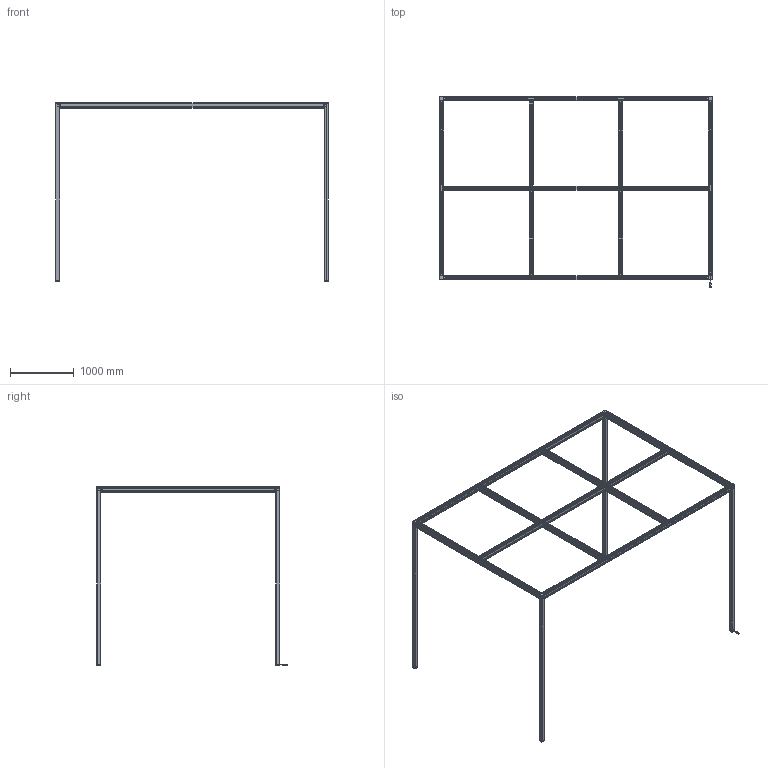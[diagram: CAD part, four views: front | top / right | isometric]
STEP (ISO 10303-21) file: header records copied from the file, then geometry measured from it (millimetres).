
FILE_DESCRIPTION (( 'STEP AP214' ), '1' );
FILE_NAME ('1001984.STEP', '2025-09-12T10:27:54', ( '' ), ( '' ), 'SwSTEP 2.0', 'SolidWorks 2025', '' );
FILE_SCHEMA (( 'AUTOMOTIVE_DESIGN' ));
Length unit declared in the file: millimetre
Products named in the file (1): 1001984
Bounding box: 4262.4 x 2977.5 x 2808.6 mm (x, y, z)
Volume: 86505641.3 mm3; surface area: 18321554.3 mm2
Topology: 113 solids, 113 shells, 7061 faces, 19481 edges, 12838 vertices
Faces by surface type: plane 4725, cylinder 1850, bspline 288, cone 104, sphere 70, torus 24
Entity records: 242362 total; most frequent: CARTESIAN_POINT 61105, ORIENTED_EDGE 38938, DIRECTION 35529, EDGE_CURVE 19469, VECTOR 14905, LINE 14905, VERTEX_POINT 12832, AXIS2_PLACEMENT_3D 10312
